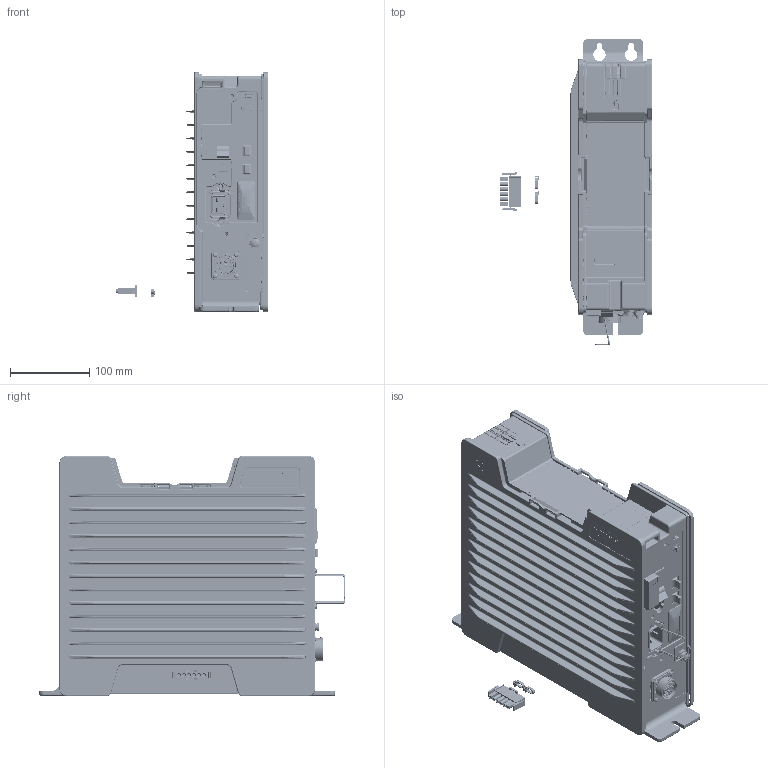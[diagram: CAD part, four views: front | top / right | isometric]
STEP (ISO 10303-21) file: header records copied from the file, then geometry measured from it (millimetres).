
FILE_DESCRIPTION((''),'2;1');
FILE_NAME('6159327800_DIM','2025-05-15T14:44:04',('SYSTEM'),(''),'CREO PARAMETRIC BY PTC INC, 2022414','CREO PARAMETRIC BY PTC INC, 2022414','');
FILE_SCHEMA(('AP242_MANAGED_MODEL_BASED_3D_ENGINEERING_MIM_LF { 1 0 10303 442 1 1 4 }'));
Products named in the file (1): 6159327800_DIM
Bounding box: 193.43 x 387.04 x 303.44 mm (x, y, z)
Surface area: 755093.1 mm2 (no closed solid volume)
Topology: 0 solids, 1385 shells, 6593 faces, 45734 edges, 39929 vertices
Faces by surface type: plane 3195, cylinder 1592, bspline 1009, torus 371, cone 256, extrusion 100, sphere 70
Entity records: 567206 total; most frequent: CARTESIAN_POINT 232857, ORIENTED_EDGE 56490, DIRECTION 46739, EDGE_CURVE 45701, VERTEX_POINT 39929, VECTOR 25471, LINE 25371, B_SPLINE_CURVE_WITH_KNOTS 15280
